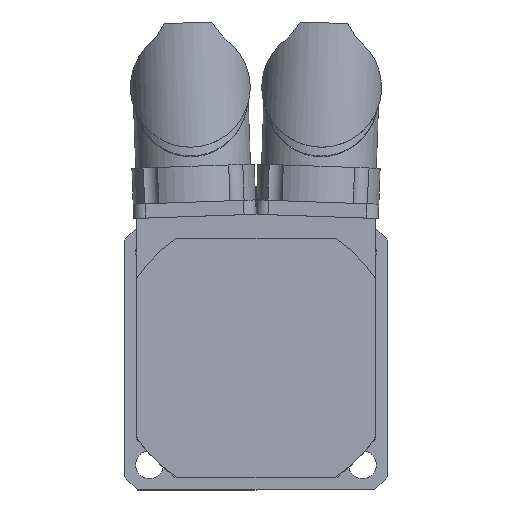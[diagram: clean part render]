
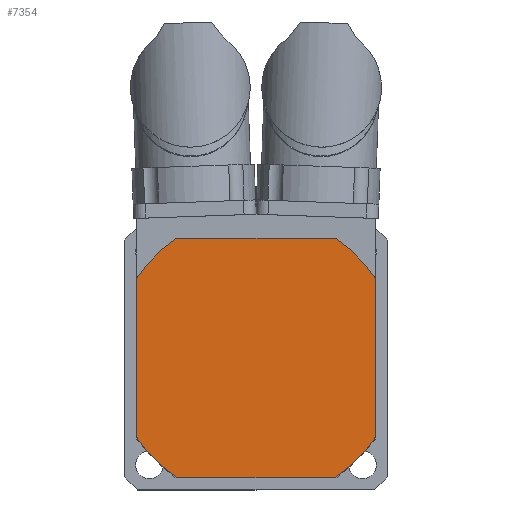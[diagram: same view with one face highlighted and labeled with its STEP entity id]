
A CAD part, top view. The second image highlights one B-rep face of the part: STEP entity #7354.
In plain terms, the highlighted planar face has unit normal (0, 0, 1).
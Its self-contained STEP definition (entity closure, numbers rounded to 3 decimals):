
#7174=CARTESIAN_POINT('',(16.583,25.0,4.5));
#7175=VERTEX_POINT('',#7174);
#7176=CARTESIAN_POINT('',(25.0,16.583,4.5));
#7177=VERTEX_POINT('',#7176);
#7178=CARTESIAN_POINT('',(0.0,0.0,4.5));
#7179=DIRECTION('',(0.0,0.0,-1.0));
#7180=DIRECTION('',(-0.833,-0.553,0.0));
#7181=AXIS2_PLACEMENT_3D('',#7178,#7179,#7180);
#7182=CIRCLE('',#7181,30.0);
#7183=EDGE_CURVE('',#7175,#7177,#7182,.T.);
#7206=CARTESIAN_POINT('',(25.,-16.583,4.5));
#7207=VERTEX_POINT('',#7206);
#7208=CARTESIAN_POINT('',(16.583,-25.0,4.5));
#7209=VERTEX_POINT('',#7208);
#7210=CARTESIAN_POINT('',(0.0,0.0,4.5));
#7211=DIRECTION('',(0.0,0.0,-1.0));
#7212=DIRECTION('',(-0.553,0.833,0.0));
#7213=AXIS2_PLACEMENT_3D('',#7210,#7211,#7212);
#7214=CIRCLE('',#7213,30.0);
#7215=EDGE_CURVE('',#7207,#7209,#7214,.T.);
#7240=CARTESIAN_POINT('',(-16.583,-25.0,4.5));
#7241=VERTEX_POINT('',#7240);
#7242=CARTESIAN_POINT('',(-25.0,-16.583,4.5));
#7243=VERTEX_POINT('',#7242);
#7244=CARTESIAN_POINT('',(0.0,0.0,4.5));
#7245=DIRECTION('',(0.0,0.0,-1.0));
#7246=DIRECTION('',(0.833,0.553,0.0));
#7247=AXIS2_PLACEMENT_3D('',#7244,#7245,#7246);
#7248=CIRCLE('',#7247,30.0);
#7249=EDGE_CURVE('',#7241,#7243,#7248,.T.);
#7280=CARTESIAN_POINT('',(-25.,16.583,4.5));
#7281=VERTEX_POINT('',#7280);
#7282=CARTESIAN_POINT('',(-16.583,25.0,4.5));
#7283=VERTEX_POINT('',#7282);
#7284=CARTESIAN_POINT('',(0.0,0.0,4.5));
#7285=DIRECTION('',(0.0,0.0,-1.0));
#7286=DIRECTION('',(0.553,-0.833,0.0));
#7287=AXIS2_PLACEMENT_3D('',#7284,#7285,#7286);
#7288=CIRCLE('',#7287,30.);
#7289=EDGE_CURVE('',#7281,#7283,#7288,.T.);
#7312=CARTESIAN_POINT('',(-16.583,25.0,4.5));
#7313=DIRECTION('',(1.0,0.0,0.0));
#7314=VECTOR('',#7313,33.166);
#7315=LINE('',#7312,#7314);
#7316=EDGE_CURVE('',#7283,#7175,#7315,.T.);
#7324=CARTESIAN_POINT('',(-27.5,-27.5,4.5));
#7325=DIRECTION('',(0.0,0.0,1.0));
#7326=DIRECTION('',(1.0,0.0,0.0));
#7327=AXIS2_PLACEMENT_3D('',#7324,#7325,#7326);
#7328=PLANE('',#7327);
#7329=ORIENTED_EDGE('',*,*,#7183,.F.);
#7330=ORIENTED_EDGE('',*,*,#7316,.F.);
#7331=ORIENTED_EDGE('',*,*,#7289,.F.);
#7332=CARTESIAN_POINT('',(-25.0,-16.583,4.5));
#7333=DIRECTION('',(0.0,1.0,0.0));
#7334=VECTOR('',#7333,33.166);
#7335=LINE('',#7332,#7334);
#7336=EDGE_CURVE('',#7243,#7281,#7335,.T.);
#7337=ORIENTED_EDGE('',*,*,#7336,.F.);
#7338=ORIENTED_EDGE('',*,*,#7249,.F.);
#7339=CARTESIAN_POINT('',(16.583,-25.0,4.5));
#7340=DIRECTION('',(-1.0,0.0,0.0));
#7341=VECTOR('',#7340,33.166);
#7342=LINE('',#7339,#7341);
#7343=EDGE_CURVE('',#7209,#7241,#7342,.T.);
#7344=ORIENTED_EDGE('',*,*,#7343,.F.);
#7345=ORIENTED_EDGE('',*,*,#7215,.F.);
#7346=CARTESIAN_POINT('',(25.0,16.583,4.5));
#7347=DIRECTION('',(0.0,-1.0,0.0));
#7348=VECTOR('',#7347,33.166);
#7349=LINE('',#7346,#7348);
#7350=EDGE_CURVE('',#7177,#7207,#7349,.T.);
#7351=ORIENTED_EDGE('',*,*,#7350,.F.);
#7352=EDGE_LOOP('',(#7329,#7330,#7331,#7337,#7338,#7344,#7345,#7351));
#7353=FACE_OUTER_BOUND('',#7352,.T.);
#7354=ADVANCED_FACE('',(#7353),#7328,.T.);
